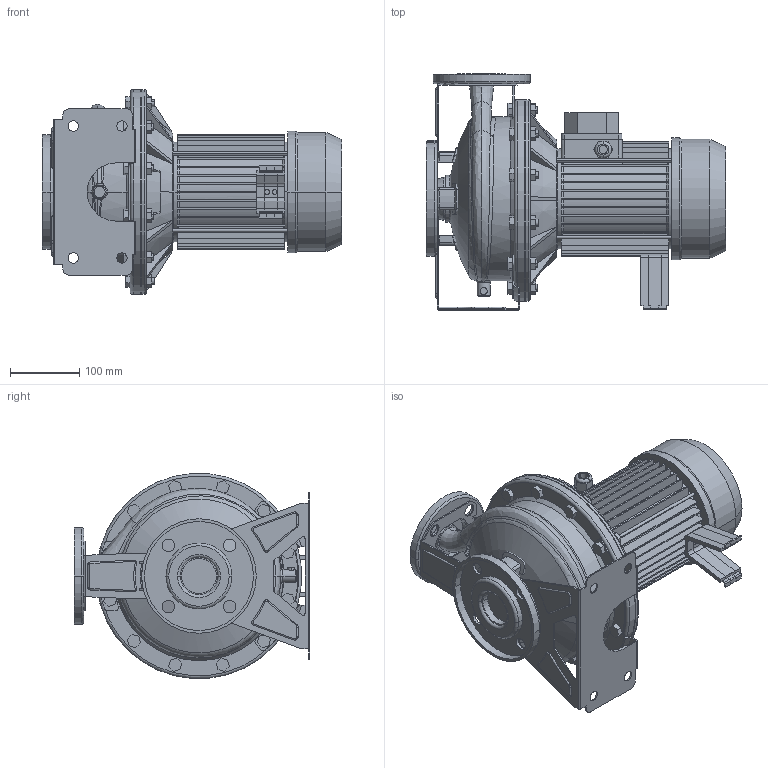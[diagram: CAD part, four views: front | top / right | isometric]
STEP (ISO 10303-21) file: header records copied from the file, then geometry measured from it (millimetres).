
FILE_DESCRIPTION((''),'2;1');
FILE_NAME('3M4_32-200_0_75_IE2_ASM','2012-03-14T',('Rosa'),('"Ebara Pumps Europe +39.444.706811"'),'PRO/ENGINEER BY PARAMETRIC TECHNOLOGY CORPORATION, 2009360','PRO/ENGINEER BY PARAMETRIC TECHNOLOGY CORPORATION, 2009360','');
FILE_SCHEMA(('AUTOMOTIVE_DESIGN { 1 0 10303 214 1 1 1 1 }'));
Length unit declared in the file: millimetre
Products named in the file (11): CORPO_32-200; ASP_32-200; FLANGIA_DIN_50; MAND_32-200; FLANGIA_DIN_32; BASE_3M_32-200; CORPO_SALDATO_32-200_ASM; SUPPORTO_3M_230_90; MEC_90X120_IE2; SOSTEGNO_72006; 3M4_32-200_0_75_IE2_ASM
Assembly tree (11 placements, depth 3):
  3M4_32-200_0_75_IE2_ASM
    CORPO_SALDATO_32-200_ASM
      CORPO_32-200
      ASP_32-200
      FLANGIA_DIN_50
      MAND_32-200
      FLANGIA_DIN_32
      BASE_3M_32-200
    SUPPORTO_3M_230_90
    MEC_90X120_IE2
    SOSTEGNO_72006  x2
Bounding box: 432 x 340 x 295.13 mm (x, y, z)
Volume: 9357445.7 mm3; surface area: 1139124.1 mm2
Topology: 13 solids, 13 shells, 1133 faces, 2886 edges, 1847 vertices
Faces by surface type: plane 629, cylinder 315, cone 90, torus 60, bspline 33, sphere 6
Entity records: 47428 total; most frequent: CARTESIAN_POINT 9197, DIRECTION 5704, ORIENTED_EDGE 5604, PRESENTATION_STYLE_ASSIGNMENT 2814, STYLED_ITEM 2814, CURVE_STYLE 2802, EDGE_CURVE 2802, AXIS2_PLACEMENT_3D 2048
